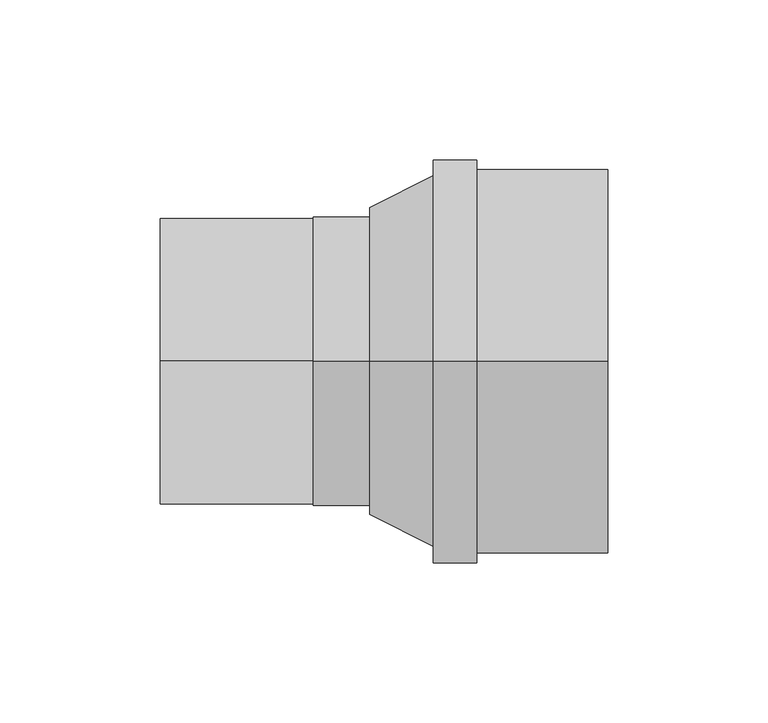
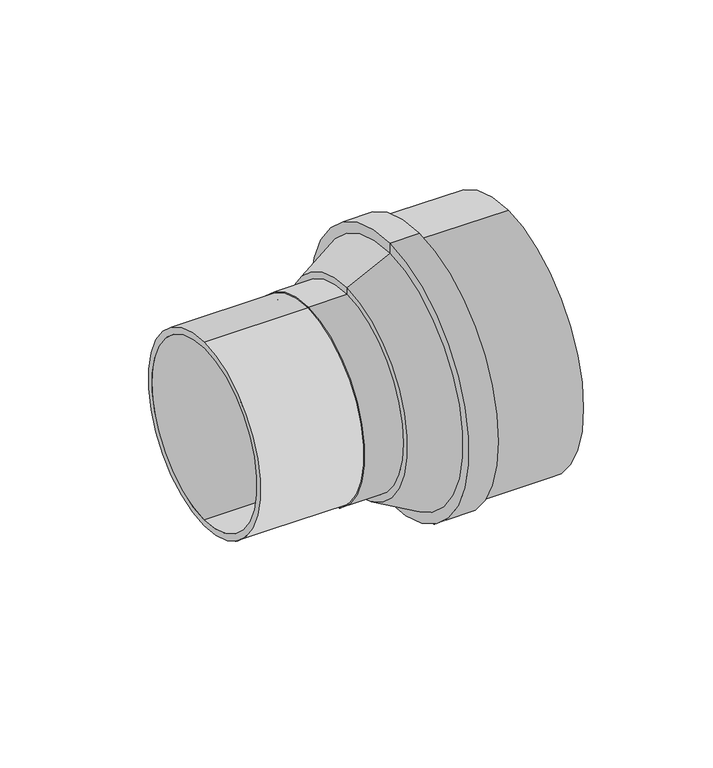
"""IFC4 building model written with IfcOpenShell, lengths in millimetres: valve geometry, Superdrain_Maxi-Filtra : Superdrain_Maxi-Filtra DN100."""

from ifc_helpers import new_model, si_unit, frame, origin, place, context, project, spatial, polyline, circle_curve, source, transform, mapped, element, save
from ifc_brep_helpers import plane_surface, cylinder_surface, revolved_surface, advanced_brep


def valve_b1cd4743(model_context):
    return source(origin(), model_context, "Body", "AdvancedBrep", [
        advanced_brep(
        [(47.65, 0.0, 0.0), (47.65, 0.0, 41.6), (47.65, 0.0, -41.6), (47.65, 0.0, 45.06), (47.65, 0.0, -45.06), (47.65, 0.0, -44.6), (47.65, 0.0, 44.6), (65.41, 0.0, 45.06), (65.41, 0.0, -45.06), (65.41, 0.0, 48.1187888), (65.41, 0.0, -48.1187888), (85.11, 0.0, 58.1564401), (85.11, 0.0, -58.1564401), (85.11, 0.0, 63.0), (85.11, 0.0, -63.0), (98.79, 0.0, 63.0), (98.79, 0.0, -63.0), (98.79, 0.0, 60.0), (98.79, 0.0, -60.0), (139.59, 0.0, 60.0), (139.59, 0.0, -60.0), (139.59, 0.0, 0.0), (0.0, 0.0, 44.6), (0.0, 0.0, -44.6), (0.0, 0.0, 41.6), (0.0, 0.0, -41.6)],
        [
            (0, 1),
            (1, 2, circle_curve(frame((47.65, 0.0, 0.0), z_axis=(-1.0, 0.0, 0.0), x_axis=(0.0, 0.0, -1.0)), 41.6)),
            (2, 0),
            (3, 4, circle_curve(frame((47.65, 0.0, 0.0), z_axis=(-1.0, 0.0, 0.0), x_axis=(0.0, 0.0, 1.0)), 45.06)),
            (4, 5),
            (5, 6, circle_curve(frame((47.65, 0.0, 0.0), z_axis=(1.0, 0.0, 0.0), x_axis=(0.0, 0.0, -1.0)), 44.6)),
            (6, 3),
            (2, 1, circle_curve(frame((47.65, 0.0, 0.0), z_axis=(-1.0, 0.0, 0.0), x_axis=(0.0, 0.0, -1.0)), 41.6)),
            (4, 3, circle_curve(frame((47.65, 0.0, 0.0), z_axis=(-1.0, 0.0, 0.0), x_axis=(0.0, 0.0, 1.0)), 45.06)),
            (6, 5, circle_curve(frame((47.65, 0.0, 0.0), z_axis=(1.0, 0.0, 0.0), x_axis=(0.0, 0.0, -1.0)), 44.6)),
            (3, 7),
            (7, 8, circle_curve(frame((65.41, 0.0, 0.0), z_axis=(-1.0, 0.0, 0.0), x_axis=(0.0, 0.0, 1.0)), 45.06)),
            (8, 4),
            (8, 7, circle_curve(frame((65.41, 0.0, 0.0), z_axis=(-1.0, 0.0, 0.0), x_axis=(0.0, 0.0, 1.0)), 45.06)),
            (7, 9),
            (9, 10, circle_curve(frame((65.41, 0.0, 0.0), z_axis=(-1.0, 0.0, 0.0), x_axis=(0.0, 0.0, 1.0)), 48.1187888)),
            (10, 8),
            (10, 9, circle_curve(frame((65.41, 0.0, 0.0), z_axis=(-1.0, 0.0, 0.0), x_axis=(0.0, 0.0, 1.0)), 48.1187888)),
            (9, 11),
            (11, 12, circle_curve(frame((85.11, 0.0, 0.0), z_axis=(-1.0, 0.0, 0.0), x_axis=(0.0, 0.0, 1.0)), 58.1564401)),
            (12, 10),
            (12, 11, circle_curve(frame((85.11, 0.0, 0.0), z_axis=(-1.0, 0.0, 0.0), x_axis=(0.0, 0.0, 1.0)), 58.1564401)),
            (11, 13),
            (13, 14, circle_curve(frame((85.11, 0.0, 0.0), z_axis=(-1.0, 0.0, 0.0), x_axis=(0.0, 0.0, 1.0)), 63.0)),
            (14, 12),
            (14, 13, circle_curve(frame((85.11, 0.0, 0.0), z_axis=(-1.0, 0.0, 0.0), x_axis=(0.0, 0.0, 1.0)), 63.0)),
            (13, 15),
            (15, 16, circle_curve(frame((98.79, 0.0, 0.0), z_axis=(-1.0, 0.0, 0.0), x_axis=(0.0, 0.0, 1.0)), 63.0)),
            (16, 14),
            (16, 15, circle_curve(frame((98.79, 0.0, 0.0), z_axis=(-1.0, 0.0, 0.0), x_axis=(0.0, 0.0, 1.0)), 63.0)),
            (15, 17),
            (17, 18, circle_curve(frame((98.79, 0.0, 0.0), z_axis=(-1.0, 0.0, 0.0), x_axis=(0.0, 0.0, 1.0)), 60.0)),
            (18, 16),
            (18, 17, circle_curve(frame((98.79, 0.0, 0.0), z_axis=(-1.0, 0.0, 0.0), x_axis=(0.0, 0.0, 1.0)), 60.0)),
            (17, 19),
            (19, 20, circle_curve(frame((139.59, 0.0, 0.0), z_axis=(-1.0, 0.0, 0.0), x_axis=(0.0, 0.0, 1.0)), 60.0)),
            (20, 18),
            (20, 19, circle_curve(frame((139.59, 0.0, 0.0), z_axis=(-1.0, 0.0, 0.0), x_axis=(0.0, 0.0, 1.0)), 60.0)),
            (19, 21),
            (21, 20),
            (22, 23, circle_curve(frame((0.0, 0.0, 0.0), z_axis=(-1.0, 0.0, 0.0), x_axis=(0.0, 0.0, -1.0)), 44.6)),
            (23, 22, circle_curve(frame((0.0, 0.0, 0.0), z_axis=(-1.0, 0.0, 0.0), x_axis=(0.0, 0.0, -1.0)), 44.6)),
            (24, 25, circle_curve(frame((0.0, 0.0, 0.0), z_axis=(1.0, 0.0, 0.0), x_axis=(0.0, 0.0, -1.0)), 41.6)),
            (25, 24, circle_curve(frame((0.0, 0.0, 0.0), z_axis=(1.0, 0.0, 0.0), x_axis=(0.0, 0.0, -1.0)), 41.6)),
            (25, 2),
            (1, 24),
            (23, 5),
            (6, 22),
        ],
        [
            plane_surface(frame((47.65, 0.0, 0.0), z_axis=(-1.0, 0.0, 0.0), x_axis=(0.0, 0.0, 1.0))),
            cylinder_surface(frame((144.59, 0.0, 0.0), z_axis=(-1.0, 0.0, 0.0), x_axis=(0.0, 0.0, 1.0)), 45.06),
            plane_surface(frame((65.41, 0.0, 0.0), z_axis=(-1.0, 0.0, 0.0), x_axis=(0.0, 0.0, 1.0))),
            revolved_surface(polyline([(85.11, 0.0, 58.1564401), (65.41, 0.0, 48.1187888)]), (144.59, 0.0, 0.0), (-1.0, 0.0, 0.0)),
            plane_surface(frame((85.11, 0.0, 0.0), z_axis=(-1.0, 0.0, 0.0), x_axis=(0.0, 0.0, 1.0))),
            cylinder_surface(frame((144.59, 0.0, 0.0), z_axis=(-1.0, 0.0, 0.0), x_axis=(0.0, 0.0, 1.0)), 63.0),
            plane_surface(frame((98.79, 0.0, 0.0), z_axis=(1.0, 0.0, 0.0), x_axis=(0.0, 0.0, 1.0))),
            cylinder_surface(frame((144.59, 0.0, 0.0), z_axis=(-1.0, 0.0, 0.0), x_axis=(0.0, 0.0, 1.0)), 60.0),
            plane_surface(frame((139.59, 0.0, 0.0), z_axis=(1.0, 0.0, 0.0), x_axis=(0.0, 0.0, 1.0))),
            plane_surface(frame((0.0, 0.0, -41.6), z_axis=(-1.0, 0.0, 0.0), x_axis=(0.0, 1.0, 0.0))),
            revolved_surface(polyline([(0.0, 0.0, -41.6), (47.65, 0.0, -41.6)]), (0.0, 0.0, 0.0), (-1.0, 0.0, 0.0)),
            cylinder_surface(frame((0.0, 0.0, 0.0), z_axis=(1.0, 0.0, 0.0), x_axis=(0.0, 0.0, -1.0)), 44.6),
        ],
        [
            (0, [[1, 2, 3]]),
            (0, [[4, 5, 6, 7]]),
            (0, [[-1, -3, 8]]),
            (0, [[9, -7, 10, -5]]),
            (1, [[-4, 11, 12, 13]]),
            (1, [[-9, -13, 14, -11]]),
            (2, [[-12, 15, 16, 17]]),
            (2, [[-14, -17, 18, -15]]),
            (3, [[-16, 19, 20, 21]]),
            (3, [[-18, -21, 22, -19]]),
            (4, [[-20, 23, 24, 25]]),
            (4, [[-22, -25, 26, -23]]),
            (5, [[-24, 27, 28, 29]]),
            (5, [[-26, -29, 30, -27]]),
            (6, [[-28, 31, 32, 33]]),
            (6, [[-30, -33, 34, -31]]),
            (7, [[-32, 35, 36, 37]]),
            (7, [[-34, -37, 38, -35]]),
            (8, [[-36, 39, 40]]),
            (8, [[-38, -40, -39]]),
            (9, [[41, 42], [43, 44]]),
            (10, [[-44, 45, -2, 46]]),
            (10, [[-43, -46, -8, -45]]),
            (11, [[-42, 47, -10, 48]]),
            (11, [[-41, -48, -6, -47]]),
        ],
    ),
    ])


if __name__ == "__main__":
    model = new_model("IFC4")
    model_context = context("Model", 3, world=origin())
    ifc_project = project(units=[si_unit("LENGTHUNIT", "METRE", prefix="MILLI")], contexts=[model_context])
    site = spatial("IfcSite", under=ifc_project)
    building = spatial("IfcBuilding", under=site)
    placement = place(None, origin())
    valve_shape = valve_b1cd4743(model_context)
    element("IfcValve", 1, ObjectType="Superdrain_Maxi-Filtra : Superdrain_Maxi-Filtra DN100", at=placement, inside=building, context=model_context, shape_type="MappedRepresentation", body=[
        mapped(valve_shape, transform((0.0, 0.0, 0.0), x_axis=(1.0, 0.0, 0.0), y_axis=(0.0, 1.0, 0.0), z_axis=(0.0, 0.0, 1.0))),
    ])
    save(model, "model.ifc")
